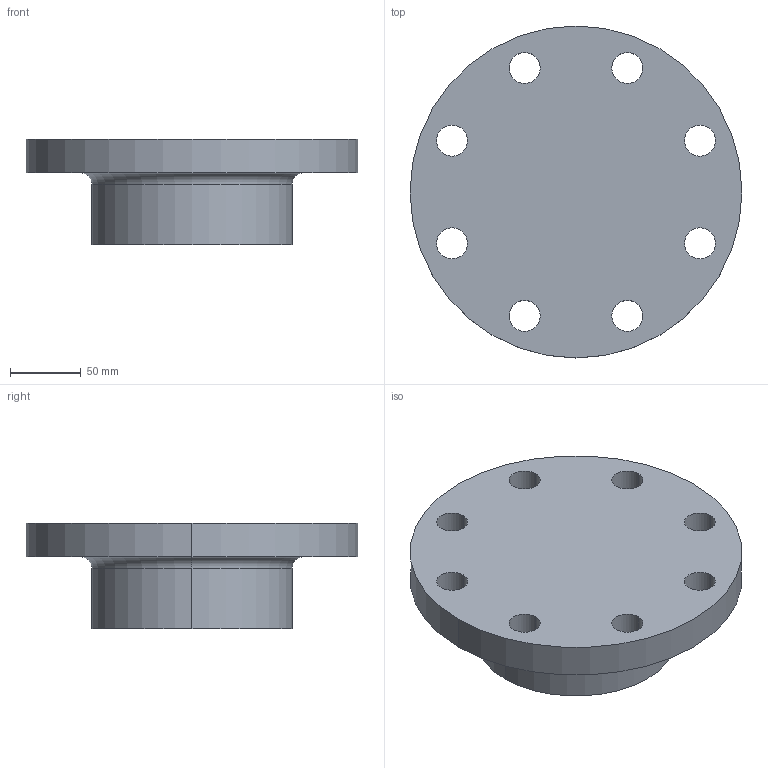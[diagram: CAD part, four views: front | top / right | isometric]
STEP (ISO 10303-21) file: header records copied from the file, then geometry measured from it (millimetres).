
FILE_DESCRIPTION (( 'STEP AP214' ), '1' );
FILE_NAME ('PN40 DN100 Type 21(i) - Type A Face.STEP', '2019-01-02T00:16:59', ( '' ), ( '' ), 'SwSTEP 2.0', 'SolidWorks 2019', '' );
FILE_SCHEMA (( 'AUTOMOTIVE_DESIGN' ));
Length unit declared in the file: millimetre
Products named in the file (1): PN40 DN100 Type 21(i) - Type A Face
Bounding box: 235 x 235 x 75 mm (x, y, z)
Volume: 1781937.7 mm3; surface area: 132901.9 mm2
Topology: 1 solids, 1 shells, 25 faces, 64 edges, 42 vertices
Faces by surface type: cylinder 20, plane 3, torus 2
Entity records: 852 total; most frequent: DIRECTION 160, CARTESIAN_POINT 132, ORIENTED_EDGE 128, AXIS2_PLACEMENT_3D 70, EDGE_CURVE 64, CIRCLE 44, VERTEX_POINT 42, EDGE_LOOP 42
